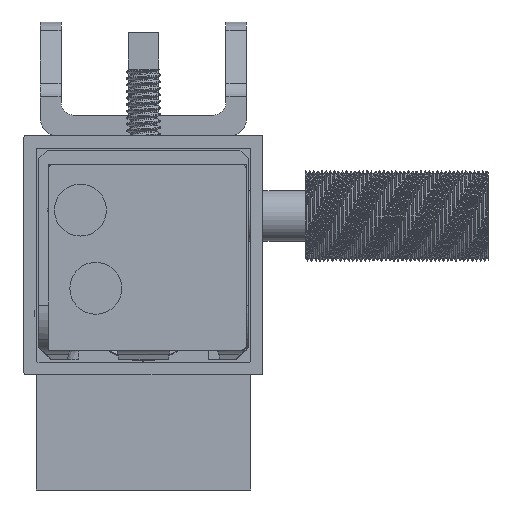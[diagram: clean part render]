
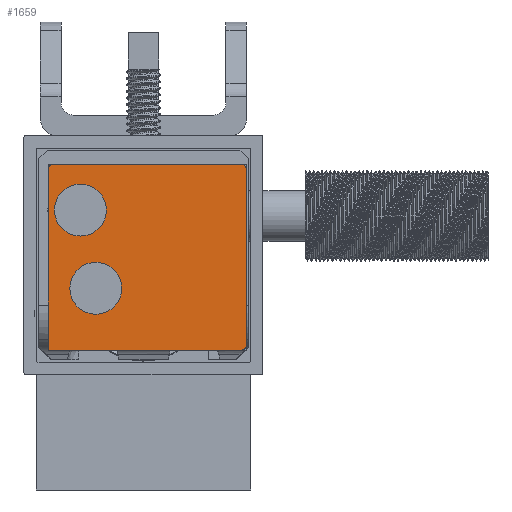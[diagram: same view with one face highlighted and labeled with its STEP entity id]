
A CAD part, front view. The second image highlights one B-rep face of the part: STEP entity #1659.
In plain terms, the highlighted planar face has unit normal (0, -1, 0).
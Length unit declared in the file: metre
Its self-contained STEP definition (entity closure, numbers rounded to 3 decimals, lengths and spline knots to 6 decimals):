
#1659=ADVANCED_FACE('0:8427',(#4178,#4179,#4180),#4181,.T.);
#4178=FACE_OUTER_BOUND('',#17702,.T.);
#4179=FACE_BOUND('',#17703,.T.);
#4180=FACE_BOUND('',#17704,.T.);
#4181=PLANE('',#17705);
#17702=EDGE_LOOP('',(#27709,#27710,#27711,#27712,#27713,#27714,#27715,#27716,#27717,#27718));
#17703=EDGE_LOOP('',(#27719,#27720));
#17704=EDGE_LOOP('',(#27721,#27722));
#17705=AXIS2_PLACEMENT_3D('',#27723,#27724,#27725);
#27709=ORIENTED_EDGE('',*,*,#31560,.T.);
#27710=ORIENTED_EDGE('',*,*,#31561,.T.);
#27711=ORIENTED_EDGE('',*,*,#31562,.F.);
#27712=ORIENTED_EDGE('',*,*,#31547,.F.);
#27713=ORIENTED_EDGE('',*,*,#31563,.T.);
#27714=ORIENTED_EDGE('',*,*,#31564,.F.);
#27715=ORIENTED_EDGE('',*,*,#31539,.F.);
#27716=ORIENTED_EDGE('',*,*,#31565,.T.);
#27717=ORIENTED_EDGE('',*,*,#31566,.F.);
#27718=ORIENTED_EDGE('',*,*,#31543,.F.);
#27719=ORIENTED_EDGE('',*,*,#31556,.T.);
#27720=ORIENTED_EDGE('',*,*,#31555,.T.);
#27721=ORIENTED_EDGE('',*,*,#31558,.T.);
#27722=ORIENTED_EDGE('',*,*,#31551,.T.);
#27723=CARTESIAN_POINT('',(0.01496,-0.0043,0.01423));
#27724=DIRECTION('',(0.0,-1.0,0.0));
#27725=DIRECTION('',(0.0,0.0,-1.0));
#31539=EDGE_CURVE('0:8478',#37312,#37308,#37314,.T.);
#31543=EDGE_CURVE('0:8484',#37320,#37316,#37322,.T.);
#31547=EDGE_CURVE('0:8472',#37328,#37324,#37330,.T.);
#31551=EDGE_CURVE('0:8463',#37332,#37336,#37338,.T.);
#31555=EDGE_CURVE('0:8457',#37340,#37344,#37346,.T.);
#31556=EDGE_CURVE('0:8457',#37344,#37340,#37347,.T.);
#31558=EDGE_CURVE('0:8463',#37336,#37332,#37349,.T.);
#31560=EDGE_CURVE('0:8466',#37320,#37351,#37352,.T.);
#31561=EDGE_CURVE('0:8469',#37351,#37353,#37354,.T.);
#31562=EDGE_CURVE('0:8472',#37324,#37353,#37355,.T.);
#31563=EDGE_CURVE('0:8475',#37328,#37356,#37357,.T.);
#31564=EDGE_CURVE('0:8478',#37308,#37356,#37358,.T.);
#31565=EDGE_CURVE('0:8481',#37312,#37359,#37360,.T.);
#31566=EDGE_CURVE('0:8484',#37316,#37359,#37361,.T.);
#37308=VERTEX_POINT('',#158664);
#37312=VERTEX_POINT('',#158669);
#37314=CIRCLE('',#158672,0.0005);
#37316=VERTEX_POINT('',#158674);
#37320=VERTEX_POINT('',#158679);
#37322=CIRCLE('',#158682,0.0005);
#37324=VERTEX_POINT('',#158684);
#37328=VERTEX_POINT('',#158689);
#37330=CIRCLE('',#158692,0.0005);
#37332=VERTEX_POINT('',#158694);
#37336=VERTEX_POINT('',#158699);
#37338=CIRCLE('',#158702,0.00175);
#37340=VERTEX_POINT('',#158704);
#37344=VERTEX_POINT('',#158709);
#37346=CIRCLE('',#158712,0.00225);
#37347=CIRCLE('',#158713,0.00225);
#37349=CIRCLE('',#158715,0.00175);
#37351=VERTEX_POINT('',#158717);
#37352=LINE('',#158718,#158719);
#37353=VERTEX_POINT('',#158720);
#37354=LINE('',#158721,#158722);
#37355=CIRCLE('',#158723,0.0005);
#37356=VERTEX_POINT('',#158724);
#37357=LINE('',#158725,#158726);
#37358=CIRCLE('',#158727,0.0005);
#37359=VERTEX_POINT('',#158728);
#37360=LINE('',#158729,#158730);
#37361=CIRCLE('',#158731,0.0005);
#158664=CARTESIAN_POINT('',(0.026814,-0.0043,0.025333));
#158669=CARTESIAN_POINT('',(0.02646,-0.0043,0.02548));
#158672=AXIS2_PLACEMENT_3D('',#163110,#163111,#163112);
#158674=CARTESIAN_POINT('',(0.003106,-0.0043,0.025333));
#158679=CARTESIAN_POINT('',(0.00296,-0.0043,0.02498));
#158682=AXIS2_PLACEMENT_3D('',#163118,#163119,#163120);
#158684=CARTESIAN_POINT('',(0.026814,-0.0043,0.003126));
#158689=CARTESIAN_POINT('',(0.02696,-0.0043,0.00348));
#158692=AXIS2_PLACEMENT_3D('',#163126,#163127,#163128);
#158694=CARTESIAN_POINT('',(0.01046,-0.0043,0.01048));
#158699=CARTESIAN_POINT('',(0.00696,-0.0043,0.01048));
#158702=AXIS2_PLACEMENT_3D('',#163134,#163135,#163136);
#158704=CARTESIAN_POINT('',(0.009095,-0.0043,0.019965));
#158709=CARTESIAN_POINT('',(0.004595,-0.0043,0.019965));
#158712=AXIS2_PLACEMENT_3D('',#163142,#163143,#163144);
#158713=AXIS2_PLACEMENT_3D('',#163145,#163146,#163147);
#158715=AXIS2_PLACEMENT_3D('',#163151,#163152,#163153);
#158717=CARTESIAN_POINT('',(0.00296,-0.0043,0.00298));
#158718=CARTESIAN_POINT('',(0.00296,-0.0043,0.00298));
#158719=VECTOR('',#163157,0.01);
#158720=CARTESIAN_POINT('',(0.02646,-0.0043,0.00298));
#158721=CARTESIAN_POINT('',(0.02696,-0.0043,0.00298));
#158722=VECTOR('',#163158,0.01);
#158723=AXIS2_PLACEMENT_3D('',#163159,#163160,#163161);
#158724=CARTESIAN_POINT('',(0.02696,-0.0043,0.02498));
#158725=CARTESIAN_POINT('',(0.02696,-0.0043,0.02548));
#158726=VECTOR('',#163162,0.01);
#158727=AXIS2_PLACEMENT_3D('',#163163,#163164,#163165);
#158728=CARTESIAN_POINT('',(0.00346,-0.0043,0.02548));
#158729=CARTESIAN_POINT('',(0.00296,-0.0043,0.02548));
#158730=VECTOR('',#163166,0.01);
#158731=AXIS2_PLACEMENT_3D('',#163167,#163168,#163169);
#163110=CARTESIAN_POINT('',(0.02646,-0.0043,0.02498));
#163111=DIRECTION('',(-0.0,1.0,0.0));
#163112=DIRECTION('',(0.707,0.0,0.707));
#163118=CARTESIAN_POINT('',(0.00346,-0.0043,0.02498));
#163119=DIRECTION('',(0.0,1.0,0.0));
#163120=DIRECTION('',(-0.707,0.0,0.707));
#163126=CARTESIAN_POINT('',(0.02646,-0.0043,0.00348));
#163127=DIRECTION('',(0.0,1.0,0.0));
#163128=DIRECTION('',(0.707,0.0,-0.707));
#163134=CARTESIAN_POINT('',(0.00871,-0.0043,0.01048));
#163135=DIRECTION('',(-0.0,1.0,0.0));
#163136=DIRECTION('',(1.0,0.0,0.0));
#163142=CARTESIAN_POINT('',(0.006845,-0.0043,0.019965));
#163143=DIRECTION('',(-0.0,1.0,0.0));
#163144=DIRECTION('',(1.0,0.0,0.0));
#163145=CARTESIAN_POINT('',(0.006845,-0.0043,0.019965));
#163146=DIRECTION('',(-0.0,1.0,0.0));
#163147=DIRECTION('',(1.0,0.0,0.0));
#163151=CARTESIAN_POINT('',(0.00871,-0.0043,0.01048));
#163152=DIRECTION('',(-0.0,1.0,0.0));
#163153=DIRECTION('',(1.0,0.0,0.0));
#163157=DIRECTION('',(0.,0.0,-1.0));
#163158=DIRECTION('',(1.0,0.0,0.0));
#163159=CARTESIAN_POINT('',(0.02646,-0.0043,0.00348));
#163160=DIRECTION('',(0.0,1.0,0.0));
#163161=DIRECTION('',(0.707,0.0,-0.707));
#163162=DIRECTION('',(0.,0.0,1.0));
#163163=CARTESIAN_POINT('',(0.02646,-0.0043,0.02498));
#163164=DIRECTION('',(-0.0,1.0,0.0));
#163165=DIRECTION('',(0.707,0.0,0.707));
#163166=DIRECTION('',(-1.0,0.0,0.0));
#163167=CARTESIAN_POINT('',(0.00346,-0.0043,0.02498));
#163168=DIRECTION('',(0.0,1.0,0.0));
#163169=DIRECTION('',(-0.707,0.0,0.707));
